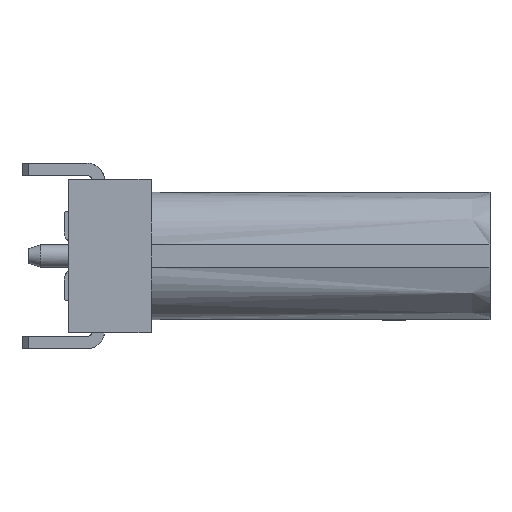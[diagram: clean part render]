
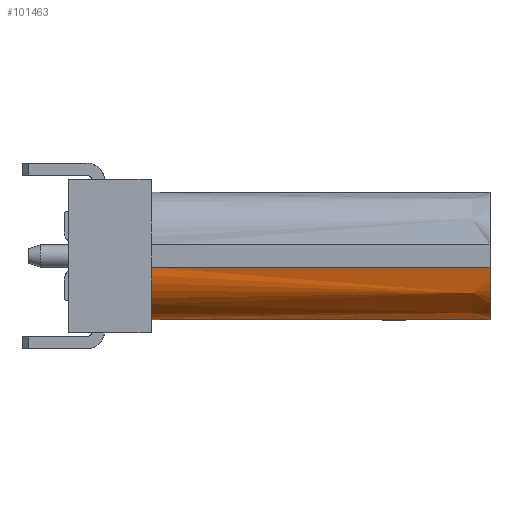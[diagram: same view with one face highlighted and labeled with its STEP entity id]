
A CAD part, left-side view. The second image highlights one B-rep face of the part: STEP entity #101463.
In plain terms, the highlighted free-form (B-spline) face has degree [1, 3] with [3, 4] control points.
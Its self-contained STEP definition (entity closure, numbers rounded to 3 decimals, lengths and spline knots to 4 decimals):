
#1096 = ORIENTED_EDGE ( 'NONE', *, *, #93543, .T. ) ;
#4268 = EDGE_CURVE ( 'NONE', #11932, #66360, #36791, .T. ) ;
#4309 = CARTESIAN_POINT ( 'NONE',  ( -4.47, 0.25, -2.6215 ) ) ;
#5355 = CARTESIAN_POINT ( 'NONE',  ( -3.9315, -0.2, -3.16 ) ) ;
#8337 = ORIENTED_EDGE ( 'NONE', *, *, #4268, .F. ) ;
#11380 = CARTESIAN_POINT ( 'NONE',  ( -3.17, -0.2, -3.16 ) ) ;
#11932 = VERTEX_POINT ( 'NONE', #21943 ) ;
#12164 = CARTESIAN_POINT ( 'NONE',  ( -3.17, -0.2, -3.16 ) ) ;
#13210 = CARTESIAN_POINT ( 'NONE',  ( -3.9315, -0.2, -3.16 ) ) ;
#16767 = ORIENTED_EDGE ( 'NONE', *, *, #77278, .F. ) ;
#18892 = B_SPLINE_CURVE_WITH_KNOTS ( 'NONE', 1,
 ( #76852, #61722, #67465 ),
 .UNSPECIFIED., .F., .F.,
 ( 2, 1, 2 ),
 ( 0., 1., 1.0566 ),
 .UNSPECIFIED. ) ;
#20290 = CARTESIAN_POINT ( 'NONE',  ( -3.17, 8.2, -3.16 ) ) ;
#21943 = CARTESIAN_POINT ( 'NONE',  ( -3.17, -0.2, -3.16 ) ) ;
#22098 = CARTESIAN_POINT ( 'NONE',  ( -3.17, 8.2, -3.16 ) ) ;
#26496 = B_SPLINE_CURVE_WITH_KNOTS ( 'NONE', 3,
 ( #43956, #51239, #67917, #49708, #67391, #99300 ),
 .UNSPECIFIED., .F., .F.,
 ( 4, 2, 4 ),
 ( 0., 0.7854, 1.5708 ),
 .UNSPECIFIED. ) ;
#26662 = CARTESIAN_POINT ( 'NONE',  ( -4.47, 8.2, -1.86 ) ) ;
#26952 = EDGE_LOOP ( 'NONE', ( #8337, #1096, #28207, #16767 ) ) ;
#28207 = ORIENTED_EDGE ( 'NONE', *, *, #61598, .F. ) ;
#29912 = FACE_OUTER_BOUND ( 'NONE', #26952, .T. ) ;
#31089 = VERTEX_POINT ( 'NONE', #72667 ) ;
#36791 = B_SPLINE_CURVE_WITH_KNOTS ( 'NONE', 1,
 ( #11380, #43777, #20290 ),
 .UNSPECIFIED., .F., .F.,
 ( 2, 1, 2 ),
 ( -0.0566, 0., 1. ),
 .UNSPECIFIED. ) ;
#37254 = CARTESIAN_POINT ( 'NONE',  ( -4.47, 0.25, -1.86 ) ) ;
#43777 = CARTESIAN_POINT ( 'NONE',  ( -3.17, 0.25, -3.16 ) ) ;
#43956 = CARTESIAN_POINT ( 'NONE',  ( -3.17, 8.2, -3.16 ) ) ;
#44050 = CARTESIAN_POINT ( 'NONE',  ( -3.9315, 0.25, -3.16 ) ) ;
#45610 = CARTESIAN_POINT ( 'NONE',  ( -4.47, -0.2, -2.6215 ) ) ;
#49708 = CARTESIAN_POINT ( 'NONE',  ( -4.3307, 8.2, -2.5378 ) ) ;
#51239 = CARTESIAN_POINT ( 'NONE',  ( -3.5114, 8.2, -3.16 ) ) ;
#53390 = CARTESIAN_POINT ( 'NONE',  ( -4.47, -0.2, -1.86 ) ) ;
#60242 = CARTESIAN_POINT ( 'NONE',  ( -3.17, -0.2, -3.16 ) ) ;
#61598 = EDGE_CURVE ( 'NONE', #87190, #31089, #18892, .T. ) ;
#61722 = CARTESIAN_POINT ( 'NONE',  ( -4.47, 0.25, -1.86 ) ) ;
#61757 = CARTESIAN_POINT ( 'NONE',  ( -4.47, -0.2, -2.6215 ) ) ;
#66360 = VERTEX_POINT ( 'NONE', #95937 ) ;
#67391 = CARTESIAN_POINT ( 'NONE',  ( -4.47, 8.2, -2.2014 ) ) ;
#67465 = CARTESIAN_POINT ( 'NONE',  ( -4.47, -0.2, -1.86 ) ) ;
#67917 = CARTESIAN_POINT ( 'NONE',  ( -3.8478, 8.2, -3.0207 ) ) ;
#68696 =( BOUNDED_SURFACE ( )  B_SPLINE_SURFACE ( 1, 3, ( 
 ( #12164, #5355, #61757, #53390 ),
 ( #100444, #44050, #4309, #37254 ),
 ( #22098, #100952, #93592, #69034 ) ),
 .UNSPECIFIED., .F., .F., .F. ) 
 B_SPLINE_SURFACE_WITH_KNOTS ( ( 2, 1, 2 ),
 ( 4, 4 ),
 ( -0.0566, 0., 1. ),
 ( 0., 1. ),
 .UNSPECIFIED. ) 
 GEOMETRIC_REPRESENTATION_ITEM ( )  RATIONAL_B_SPLINE_SURFACE ( (
 ( 1., 0.805, 0.805, 1.),
 ( 1., 0.805, 0.805, 1.),
 ( 1., 0.805, 0.805, 1.) ) ) 
 REPRESENTATION_ITEM ( '' )  SURFACE ( )  );
#69034 = CARTESIAN_POINT ( 'NONE',  ( -4.47, 8.2, -1.86 ) ) ;
#72667 = CARTESIAN_POINT ( 'NONE',  ( -4.47, -0.2, -1.86 ) ) ;
#76852 = CARTESIAN_POINT ( 'NONE',  ( -4.47, 8.2, -1.86 ) ) ;
#77251 =( BOUNDED_CURVE ( )  B_SPLINE_CURVE ( 3, ( #60242, #13210, #45610, #92080 ),
 .UNSPECIFIED., .F., .F. ) 
 B_SPLINE_CURVE_WITH_KNOTS ( ( 4, 4 ),
 ( 0., 1. ),
 .UNSPECIFIED. ) 
 CURVE ( )  GEOMETRIC_REPRESENTATION_ITEM ( )  RATIONAL_B_SPLINE_CURVE ( ( 1., 0.805, 0.805, 1. ) ) 
 REPRESENTATION_ITEM ( '' )  );
#77278 = EDGE_CURVE ( 'NONE', #66360, #87190, #26496, .T. ) ;
#87190 = VERTEX_POINT ( 'NONE', #26662 ) ;
#92080 = CARTESIAN_POINT ( 'NONE',  ( -4.47, -0.2, -1.86 ) ) ;
#93543 = EDGE_CURVE ( 'NONE', #11932, #31089, #77251, .T. ) ;
#93592 = CARTESIAN_POINT ( 'NONE',  ( -4.47, 8.2, -2.6215 ) ) ;
#95937 = CARTESIAN_POINT ( 'NONE',  ( -3.17, 8.2, -3.16 ) ) ;
#99300 = CARTESIAN_POINT ( 'NONE',  ( -4.47, 8.2, -1.86 ) ) ;
#100444 = CARTESIAN_POINT ( 'NONE',  ( -3.17, 0.25, -3.16 ) ) ;
#100952 = CARTESIAN_POINT ( 'NONE',  ( -3.9315, 8.2, -3.16 ) ) ;
#101463 = ADVANCED_FACE ( 'NONE', ( #29912 ), #68696, .F. ) ;
